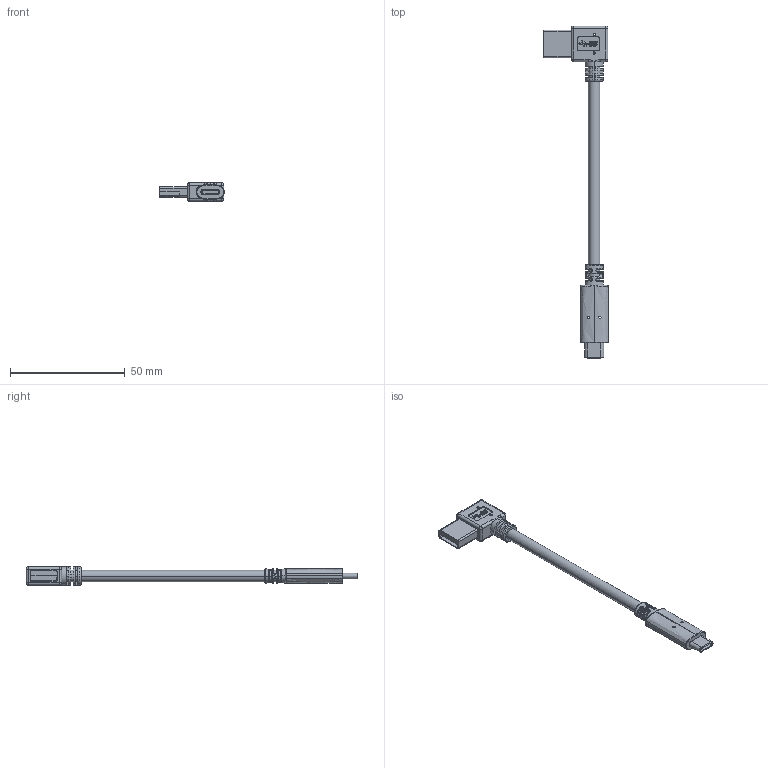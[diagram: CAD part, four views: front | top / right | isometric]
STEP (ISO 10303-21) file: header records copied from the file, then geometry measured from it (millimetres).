
FILE_DESCRIPTION (( 'STEP AP203' ), '1' );
FILE_NAME ('RR-ARCS-XXGRC_202302.STEP', '2023-02-17T05:27:59', ( '' ), ( '' ), 'SwSTEP 2.0', 'SolidWorks 2019', '' );
FILE_SCHEMA (( 'CONFIG_CONTROL_DESIGN' ));
Length unit declared in the file: millimetre
Products named in the file (1): RR-ARCS-XXGRC_202302
Bounding box: 28.12 x 144.65 x 8 mm (x, y, z)
Volume: 6288.6 mm3; surface area: 4640 mm2
Topology: 1 solids, 1 shells, 343 faces, 893 edges, 556 vertices
Faces by surface type: cylinder 149, plane 114, bspline 57, torus 11, sphere 8, cone 4
Entity records: 14105 total; most frequent: CARTESIAN_POINT 5922, ORIENTED_EDGE 1762, DIRECTION 1638, EDGE_CURVE 881, AXIS2_PLACEMENT_3D 618, VERTEX_POINT 556, LINE 402, VECTOR 402
